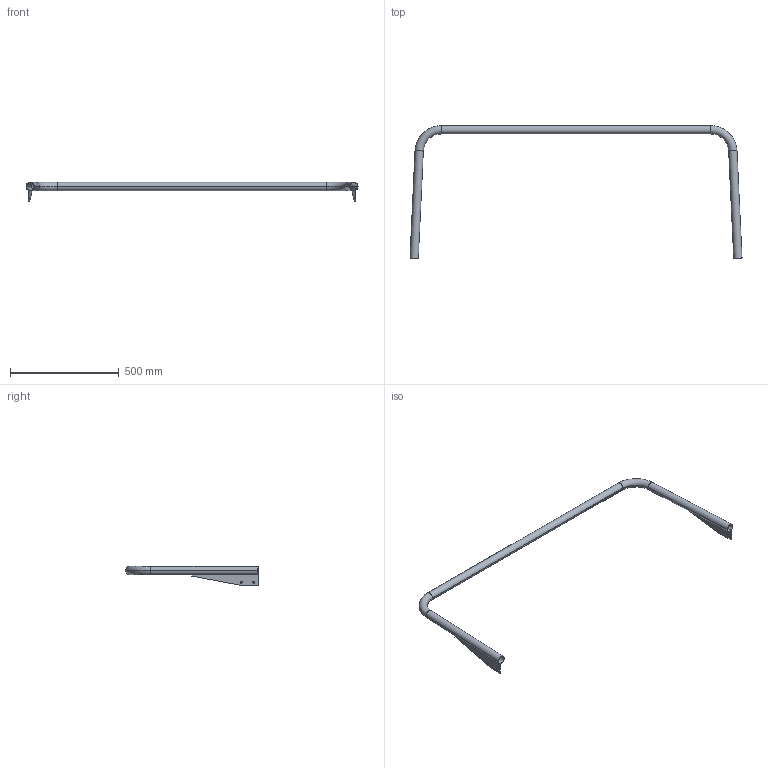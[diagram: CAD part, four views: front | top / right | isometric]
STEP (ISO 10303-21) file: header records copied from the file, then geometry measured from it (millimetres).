
FILE_DESCRIPTION (( 'STEP AP203' ), '1' );
FILE_NAME ('LIGHTBAR.STEP', '2015-06-01T12:08:07', ( '' ), ( '' ), 'SwSTEP 2.0', 'SolidWorks 2015', '' );
FILE_SCHEMA (( 'CONFIG_CONTROL_DESIGN' ));
Length unit declared in the file: inch
Products named in the file (3): BAR_Default<As Machined>; TAB; LIGHTBAR
Assembly tree (3 placements, depth 2):
  LIGHTBAR
    BAR_Default<As Machined>
    TAB  x2
Bounding box: 1523.92 x 609.15 x 88.9 mm (x, y, z)
Volume: 429157.2 mm3; surface area: 632929.6 mm2
Topology: 7 solids, 7 shells, 52 faces, 114 edges, 76 vertices
Faces by surface type: plane 24, cylinder 20, torus 8
Entity records: 1500 total; most frequent: DIRECTION 237, CARTESIAN_POINT 192, ORIENTED_EDGE 174, AXIS2_PLACEMENT_3D 103, EDGE_CURVE 87, VERTEX_POINT 58, CIRCLE 56, EDGE_LOOP 55
